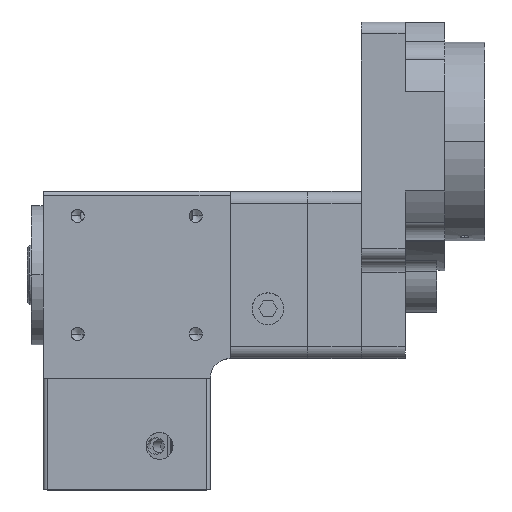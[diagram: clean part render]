
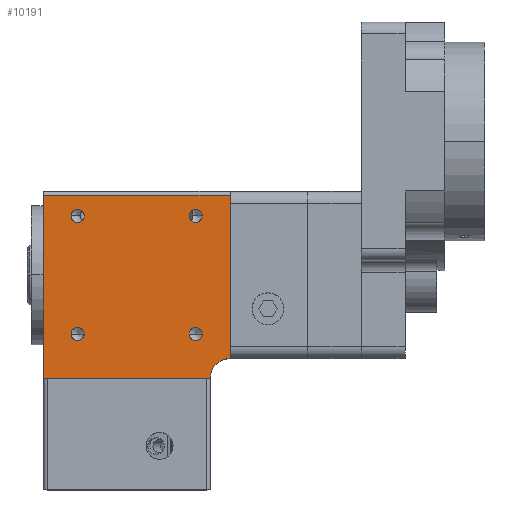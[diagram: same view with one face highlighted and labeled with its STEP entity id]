
A CAD part, top view. The second image highlights one B-rep face of the part: STEP entity #10191.
In plain terms, the highlighted planar face has unit normal (0, 0, 1).
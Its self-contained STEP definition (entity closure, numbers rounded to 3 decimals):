
#17 = CARTESIAN_POINT ( 'NONE',  ( 42.999, 17.349, 21. ) ) ;
#386 = DIRECTION ( 'NONE',  ( 1., 0., 0. ) ) ;
#1063 = AXIS2_PLACEMENT_3D ( 'NONE', #13307, #49166, #18442 ) ;
#1152 = ORIENTED_EDGE ( 'NONE', *, *, #36855, .T. ) ;
#1594 = AXIS2_PLACEMENT_3D ( 'NONE', #9445, #45290, #14569 ) ;
#2072 = CARTESIAN_POINT ( 'NONE',  ( 53., -23.5, 21. ) ) ;
#3757 = DIRECTION ( 'NONE',  ( 0., 0., -1. ) ) ;
#4017 = DIRECTION ( 'NONE',  ( 1., 0., 0. ) ) ;
#4679 = LINE ( 'NONE', #19130, #43923 ) ;
#4790 = CARTESIAN_POINT ( 'NONE',  ( 11.651, -12.349, 21. ) ) ;
#5715 = ORIENTED_EDGE ( 'NONE', *, *, #24696, .F. ) ;
#6731 = VERTEX_POINT ( 'NONE', #64697 ) ;
#7178 = DIRECTION ( 'NONE',  ( 0., 0., 1. ) ) ;
#7980 = FACE_OUTER_BOUND ( 'NONE', #26148, .T. ) ;
#8616 = EDGE_LOOP ( 'NONE', ( #60121, #16693 ) ) ;
#9445 = CARTESIAN_POINT ( 'NONE',  ( 11.651, 17.349, 21. ) ) ;
#9596 = AXIS2_PLACEMENT_3D ( 'NONE', #65385, #34739, #4017 ) ;
#9728 = CARTESIAN_POINT ( 'NONE',  ( 53., 22.5, 21. ) ) ;
#9896 = DIRECTION ( 'NONE',  ( 1., 0., 0. ) ) ;
#10000 = VERTEX_POINT ( 'NONE', #32068 ) ;
#10191 = ADVANCED_FACE ( 'NONE', ( #7980, #35294, #60886, #47290, #33664 ), #24255, .F. ) ;
#11679 = EDGE_CURVE ( 'NONE', #36319, #23303, #4679, .T. ) ;
#13230 = CARTESIAN_POINT ( 'NONE',  ( 50., 22.5, 21. ) ) ;
#13307 = CARTESIAN_POINT ( 'NONE',  ( 41.349, 17.349, 21. ) ) ;
#13379 = VECTOR ( 'NONE', #45586, 1000. ) ;
#14569 = DIRECTION ( 'NONE',  ( 1., 0., 0. ) ) ;
#15662 = DIRECTION ( 'NONE',  ( 0., 0., 1. ) ) ;
#16305 = CIRCLE ( 'NONE', #26615, 1.65 ) ;
#16693 = ORIENTED_EDGE ( 'NONE', *, *, #35262, .F. ) ;
#16985 = EDGE_CURVE ( 'NONE', #61265, #6731, #24233, .T. ) ;
#17219 = EDGE_LOOP ( 'NONE', ( #36632, #28858 ) ) ;
#17343 = EDGE_CURVE ( 'NONE', #31226, #40596, #38663, .T. ) ;
#18026 = CIRCLE ( 'NONE', #36112, 1.65 ) ;
#18442 = DIRECTION ( 'NONE',  ( 1., 0., 0. ) ) ;
#19130 = CARTESIAN_POINT ( 'NONE',  ( 3., 0., 21. ) ) ;
#20137 = ORIENTED_EDGE ( 'NONE', *, *, #44491, .F. ) ;
#20411 = VERTEX_POINT ( 'NONE', #63261 ) ;
#21567 = DIRECTION ( 'NONE',  ( 0., 0., 1. ) ) ;
#22447 = DIRECTION ( 'NONE',  ( 1., 0., 0. ) ) ;
#23303 = VERTEX_POINT ( 'NONE', #30267 ) ;
#23721 = VERTEX_POINT ( 'NONE', #13230 ) ;
#23894 = DIRECTION ( 'NONE',  ( -1., 0., 0. ) ) ;
#23936 = DIRECTION ( 'NONE',  ( 0., 0., -1. ) ) ;
#24233 = CIRCLE ( 'NONE', #59135, 1.65 ) ;
#24255 = PLANE ( 'NONE',  #31072 ) ;
#24696 = EDGE_CURVE ( 'NONE', #23303, #23721, #54311, .T. ) ;
#24719 = CARTESIAN_POINT ( 'NONE',  ( 53., -23.5, 21. ) ) ;
#26148 = EDGE_LOOP ( 'NONE', ( #5715, #29157, #1152, #32821, #50727 ) ) ;
#26615 = AXIS2_PLACEMENT_3D ( 'NONE', #52263, #21567, #57414 ) ;
#27117 = EDGE_LOOP ( 'NONE', ( #45659, #33070 ) ) ;
#28858 = ORIENTED_EDGE ( 'NONE', *, *, #41897, .F. ) ;
#29052 = EDGE_CURVE ( 'NONE', #10000, #20411, #16305, .T. ) ;
#29157 = ORIENTED_EDGE ( 'NONE', *, *, #11679, .F. ) ;
#29213 = CARTESIAN_POINT ( 'NONE',  ( 50., -18.5, 21. ) ) ;
#30267 = CARTESIAN_POINT ( 'NONE',  ( 3., 22.5, 21. ) ) ;
#30321 = CARTESIAN_POINT ( 'NONE',  ( 10.001, 17.349, 21. ) ) ;
#31072 = AXIS2_PLACEMENT_3D ( 'NONE', #24719, #23936, #23894 ) ;
#31130 = DIRECTION ( 'NONE',  ( 0., 0., 1. ) ) ;
#31226 = VERTEX_POINT ( 'NONE', #45534 ) ;
#32068 = CARTESIAN_POINT ( 'NONE',  ( 39.699, -12.349, 21. ) ) ;
#32821 = ORIENTED_EDGE ( 'NONE', *, *, #17343, .T. ) ;
#33070 = ORIENTED_EDGE ( 'NONE', *, *, #29052, .F. ) ;
#33264 = VERTEX_POINT ( 'NONE', #33345 ) ;
#33345 = CARTESIAN_POINT ( 'NONE',  ( 13.301, 17.349, 21. ) ) ;
#33664 = FACE_BOUND ( 'NONE', #8616, .T. ) ;
#34463 = CARTESIAN_POINT ( 'NONE',  ( 50., -23.5, 21. ) ) ;
#34527 = CARTESIAN_POINT ( 'NONE',  ( 50., 0., 21. ) ) ;
#34739 = DIRECTION ( 'NONE',  ( 0., 0., 1. ) ) ;
#35262 = EDGE_CURVE ( 'NONE', #63266, #38302, #65276, .T. ) ;
#35294 = FACE_BOUND ( 'NONE', #61332, .T. ) ;
#36009 = EDGE_CURVE ( 'NONE', #20411, #10000, #62945, .T. ) ;
#36112 = AXIS2_PLACEMENT_3D ( 'NONE', #4790, #40625, #9896 ) ;
#36319 = VERTEX_POINT ( 'NONE', #45435 ) ;
#36632 = ORIENTED_EDGE ( 'NONE', *, *, #16985, .F. ) ;
#36855 = EDGE_CURVE ( 'NONE', #36319, #31226, #44417, .T. ) ;
#37872 = CARTESIAN_POINT ( 'NONE',  ( 41.349, -12.349, 21. ) ) ;
#38302 = VERTEX_POINT ( 'NONE', #17 ) ;
#38431 = CARTESIAN_POINT ( 'NONE',  ( 13.301, -12.349, 21. ) ) ;
#38663 = CIRCLE ( 'NONE', #44131, 5. ) ;
#39585 = DIRECTION ( 'NONE',  ( 1., 0., 0. ) ) ;
#39657 = DIRECTION ( 'NONE',  ( 0., -1., 0. ) ) ;
#40596 = VERTEX_POINT ( 'NONE', #29213 ) ;
#40625 = DIRECTION ( 'NONE',  ( 0., 0., 1. ) ) ;
#41897 = EDGE_CURVE ( 'NONE', #6731, #61265, #18026, .T. ) ;
#43008 = DIRECTION ( 'NONE',  ( 1., 0., 0. ) ) ;
#43923 = VECTOR ( 'NONE', #49834, 1000. ) ;
#44131 = AXIS2_PLACEMENT_3D ( 'NONE', #34463, #3757, #39585 ) ;
#44417 = LINE ( 'NONE', #2072, #56456 ) ;
#44491 = EDGE_CURVE ( 'NONE', #50943, #33264, #53099, .T. ) ;
#44741 = CARTESIAN_POINT ( 'NONE',  ( 39.699, 17.349, 21. ) ) ;
#45290 = DIRECTION ( 'NONE',  ( 0., 0., 1. ) ) ;
#45435 = CARTESIAN_POINT ( 'NONE',  ( 3., -23.5, 21. ) ) ;
#45534 = CARTESIAN_POINT ( 'NONE',  ( 45., -23.5, 21. ) ) ;
#45586 = DIRECTION ( 'NONE',  ( 1., 0., 0. ) ) ;
#45659 = ORIENTED_EDGE ( 'NONE', *, *, #36009, .F. ) ;
#46381 = CARTESIAN_POINT ( 'NONE',  ( 11.651, -12.349, 21. ) ) ;
#46714 = ORIENTED_EDGE ( 'NONE', *, *, #59481, .F. ) ;
#47085 = EDGE_CURVE ( 'NONE', #23721, #40596, #66444, .T. ) ;
#47290 = FACE_BOUND ( 'NONE', #27117, .T. ) ;
#49166 = DIRECTION ( 'NONE',  ( 0., 0., 1. ) ) ;
#49834 = DIRECTION ( 'NONE',  ( 0., 1., 0. ) ) ;
#50727 = ORIENTED_EDGE ( 'NONE', *, *, #47085, .F. ) ;
#50943 = VERTEX_POINT ( 'NONE', #30321 ) ;
#51363 = CIRCLE ( 'NONE', #53523, 1.65 ) ;
#51540 = DIRECTION ( 'NONE',  ( 1., 0., 0. ) ) ;
#52263 = CARTESIAN_POINT ( 'NONE',  ( 41.349, -12.349, 21. ) ) ;
#53099 = CIRCLE ( 'NONE', #9596, 1.65 ) ;
#53468 = AXIS2_PLACEMENT_3D ( 'NONE', #37872, #7178, #43008 ) ;
#53523 = AXIS2_PLACEMENT_3D ( 'NONE', #61750, #31130, #386 ) ;
#54311 = LINE ( 'NONE', #9728, #13379 ) ;
#56456 = VECTOR ( 'NONE', #22447, 1000. ) ;
#57414 = DIRECTION ( 'NONE',  ( 1., 0., 0. ) ) ;
#58689 = EDGE_CURVE ( 'NONE', #38302, #63266, #51363, .T. ) ;
#59135 = AXIS2_PLACEMENT_3D ( 'NONE', #46381, #15662, #51540 ) ;
#59481 = EDGE_CURVE ( 'NONE', #33264, #50943, #61697, .T. ) ;
#60121 = ORIENTED_EDGE ( 'NONE', *, *, #58689, .F. ) ;
#60886 = FACE_BOUND ( 'NONE', #17219, .T. ) ;
#61265 = VERTEX_POINT ( 'NONE', #38431 ) ;
#61332 = EDGE_LOOP ( 'NONE', ( #46714, #20137 ) ) ;
#61697 = CIRCLE ( 'NONE', #1594, 1.65 ) ;
#61750 = CARTESIAN_POINT ( 'NONE',  ( 41.349, 17.349, 21. ) ) ;
#62945 = CIRCLE ( 'NONE', #53468, 1.65 ) ;
#63261 = CARTESIAN_POINT ( 'NONE',  ( 42.999, -12.349, 21. ) ) ;
#63266 = VERTEX_POINT ( 'NONE', #44741 ) ;
#64697 = CARTESIAN_POINT ( 'NONE',  ( 10.001, -12.349, 21. ) ) ;
#64840 = VECTOR ( 'NONE', #39657, 1000. ) ;
#65276 = CIRCLE ( 'NONE', #1063, 1.65 ) ;
#65385 = CARTESIAN_POINT ( 'NONE',  ( 11.651, 17.349, 21. ) ) ;
#66444 = LINE ( 'NONE', #34527, #64840 ) ;
